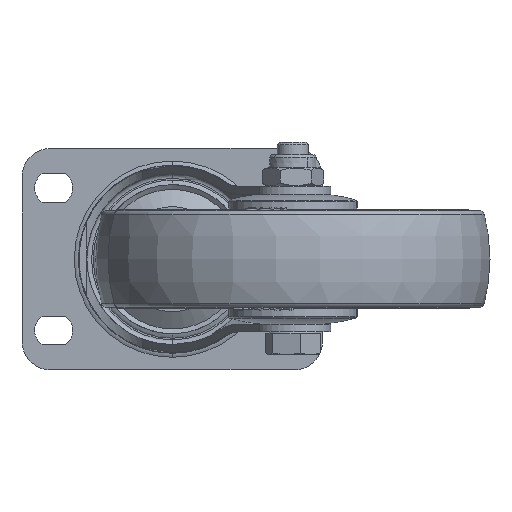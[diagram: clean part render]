
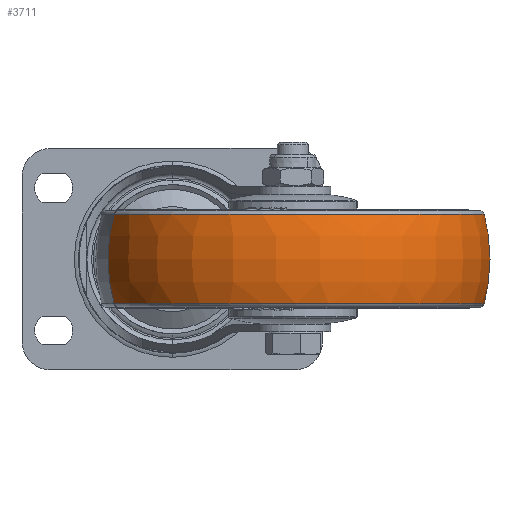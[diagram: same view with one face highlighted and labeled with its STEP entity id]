
A CAD part, front view. The second image highlights one B-rep face of the part: STEP entity #3711.
In plain terms, the highlighted toroidal (fillet/blend) face has major radius 12.5 mm and minor radius 50 mm.
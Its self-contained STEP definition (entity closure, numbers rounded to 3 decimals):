
#144 = DIRECTION ( 'NONE',  ( 1., 0., 0. ) ) ;
#3711 = ADVANCED_FACE ( 'NONE', ( #24227 ), #54773, .T. ) ;
#4497 = CARTESIAN_POINT ( 'NONE',  ( -14.122, 0., 0. ) ) ;
#5755 = ORIENTED_EDGE ( 'NONE', *, *, #24453, .F. ) ;
#7095 = CARTESIAN_POINT ( 'NONE',  ( 14.122, 0., 0. ) ) ;
#8533 = DIRECTION ( 'NONE',  ( 0., 0.5, 0.866 ) ) ;
#12441 = DIRECTION ( 'NONE',  ( 0., -0.5, -0.866 ) ) ;
#13886 = DIRECTION ( 'NONE',  ( 0., -0.5, -0.866 ) ) ;
#14120 = AXIS2_PLACEMENT_3D ( 'NONE', #7095, #58330, #16539 ) ;
#15650 = CIRCLE ( 'NONE', #49753, 50. ) ;
#16539 = DIRECTION ( 'NONE',  ( 0., -0.5, -0.866 ) ) ;
#17333 = ORIENTED_EDGE ( 'NONE', *, *, #52974, .F. ) ;
#17373 = CARTESIAN_POINT ( 'NONE',  ( 0., 6.25, 10.825 ) ) ;
#19048 = CARTESIAN_POINT ( 'NONE',  ( 0., 0., 0. ) ) ;
#21455 = DIRECTION ( 'NONE',  ( 0., -0.5, -0.866 ) ) ;
#23313 = VERTEX_POINT ( 'NONE', #47157 ) ;
#24227 = FACE_OUTER_BOUND ( 'NONE', #44040, .T. ) ;
#24453 = EDGE_CURVE ( 'NONE', #25491, #23313, #56972, .T. ) ;
#25491 = VERTEX_POINT ( 'NONE', #51000 ) ;
#27711 = VERTEX_POINT ( 'NONE', #54267 ) ;
#28588 = ORIENTED_EDGE ( 'NONE', *, *, #47996, .T. ) ;
#29991 = VERTEX_POINT ( 'NONE', #55349 ) ;
#31197 = DIRECTION ( 'NONE',  ( 0., -0.866, 0.5 ) ) ;
#32331 = EDGE_CURVE ( 'NONE', #29991, #27711, #43092, .T. ) ;
#35268 = AXIS2_PLACEMENT_3D ( 'NONE', #19048, #144, #13886 ) ;
#36795 = DIRECTION ( 'NONE',  ( 1., 0., 0. ) ) ;
#39200 = AXIS2_PLACEMENT_3D ( 'NONE', #4497, #36795, #12441 ) ;
#43092 = CIRCLE ( 'NONE', #39200, 60.464 ) ;
#44040 = EDGE_LOOP ( 'NONE', ( #17333, #58229, #28588, #5755 ) ) ;
#44348 = CARTESIAN_POINT ( 'NONE',  ( 0., -6.25, -10.825 ) ) ;
#44822 = AXIS2_PLACEMENT_3D ( 'NONE', #44348, #31197, #21455 ) ;
#46788 = CIRCLE ( 'NONE', #44822, 50. ) ;
#47157 = CARTESIAN_POINT ( 'NONE',  ( 14.122, -30.232, -52.364 ) ) ;
#47996 = EDGE_CURVE ( 'NONE', #27711, #23313, #46788, .T. ) ;
#49753 = AXIS2_PLACEMENT_3D ( 'NONE', #17373, #54912, #8533 ) ;
#51000 = CARTESIAN_POINT ( 'NONE',  ( 14.122, 30.232, 52.364 ) ) ;
#52974 = EDGE_CURVE ( 'NONE', #29991, #25491, #15650, .T. ) ;
#54267 = CARTESIAN_POINT ( 'NONE',  ( -14.122, -30.232, -52.364 ) ) ;
#54773 = TOROIDAL_SURFACE ( 'NONE', #35268, 12.5, 50. ) ;
#54912 = DIRECTION ( 'NONE',  ( 0., 0.866, -0.5 ) ) ;
#55349 = CARTESIAN_POINT ( 'NONE',  ( -14.122, 30.232, 52.364 ) ) ;
#56972 = CIRCLE ( 'NONE', #14120, 60.464 ) ;
#58229 = ORIENTED_EDGE ( 'NONE', *, *, #32331, .T. ) ;
#58330 = DIRECTION ( 'NONE',  ( 1., 0., 0. ) ) ;
